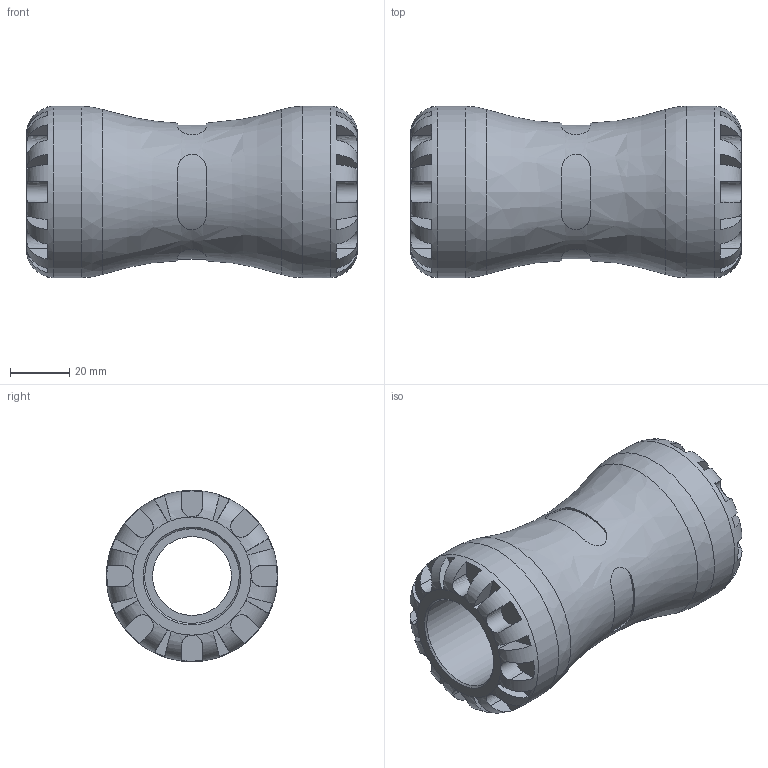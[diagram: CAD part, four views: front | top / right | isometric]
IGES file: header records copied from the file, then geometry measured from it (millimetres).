
Global section: file name: 150100032; native system: Autodesk Inventor 2019; preprocessor: unknown; author: KIM; date: 20231017.191308; units: millimetre
Bounding box: 112 x 58 x 57.99 mm (x, y, z)
Volume: 149280.6 mm3; surface area: 35986.4 mm2
Topology: 1 solids, 1 shells, 164 faces, 431 edges, 274 vertices
Faces by surface type: bspline 164
